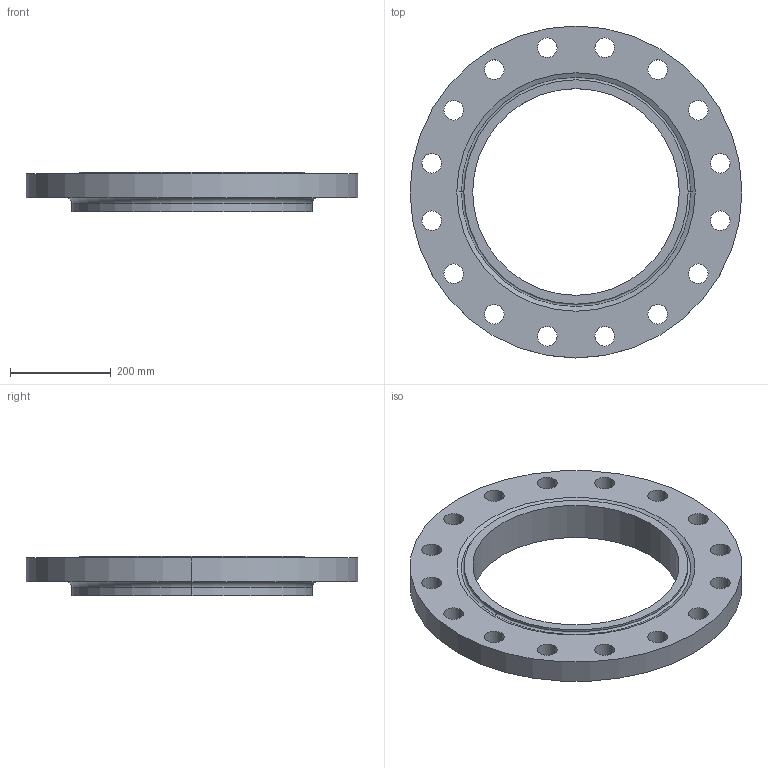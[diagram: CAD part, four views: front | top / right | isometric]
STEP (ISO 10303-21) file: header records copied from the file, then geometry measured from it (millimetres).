
FILE_DESCRIPTION (( 'STEP AP214' ), '1' );
FILE_NAME ('PN40 DN400 Type 12 - Type H Face.STEP', '2019-01-05T23:16:44', ( '' ), ( '' ), 'SwSTEP 2.0', 'SolidWorks 2019', '' );
FILE_SCHEMA (( 'AUTOMOTIVE_DESIGN' ));
Length unit declared in the file: millimetre
Products named in the file (1): PN40 DN400 Type 12 - Type H Face
Bounding box: 660 x 660 x 78 mm (x, y, z)
Volume: 10311284 mm3; surface area: 716191.4 mm2
Topology: 1 solids, 1 shells, 50 faces, 132 edges, 86 vertices
Faces by surface type: cylinder 40, torus 4, plane 4, cone 2
Entity records: 1700 total; most frequent: DIRECTION 324, CARTESIAN_POINT 269, ORIENTED_EDGE 264, AXIS2_PLACEMENT_3D 141, EDGE_CURVE 132, CIRCLE 90, VERTEX_POINT 86, EDGE_LOOP 86
